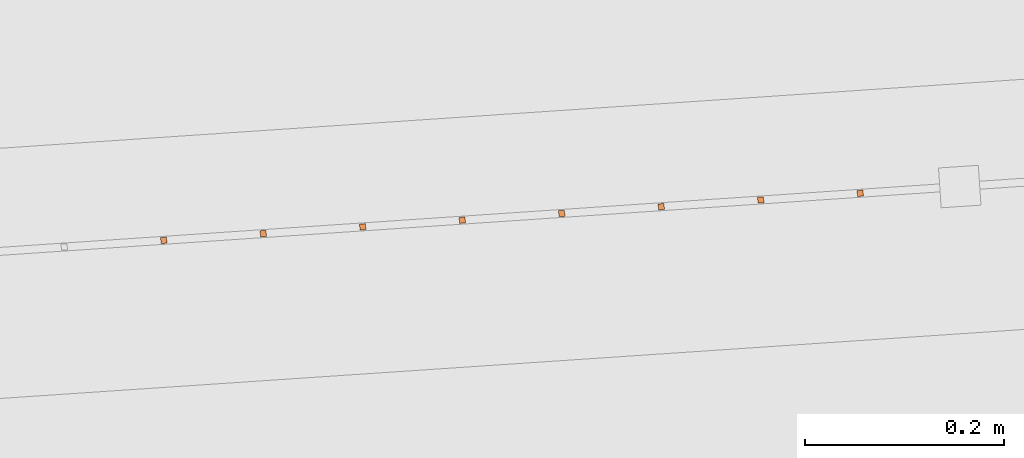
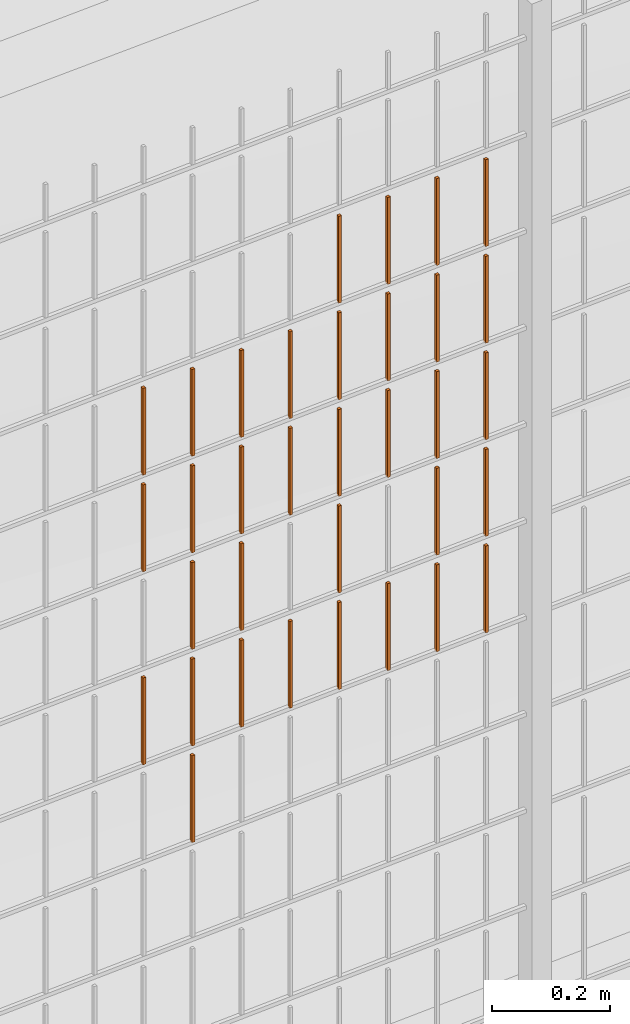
# One storey, part 378 of 1809: 34 proxies, 1 element without a shape of its own.
"""IFC2X3 building model written with IfcOpenShell, lengths in millimetres."""

import ifcopenshell
import ifcopenshell.guid

model = None  # the IFC model being written
_history = None  # IfcOwnerHistory: only IFC2X3 demands one
_inside = {}  # id of a spatial element -> (the spatial element, [elements in it])
_under = {}  # id of a project, library or spatial element -> (it, [spatial elements below it])
_declared = {}  # id of a project -> (the project, [libraries it declares])
_typed = {}  # id of a type object -> (the type object, [elements of that type])
_made_of = {}  # id of a material, layer set ... -> (it, [elements and type objects made of it])


def new_model(schema):
    """Start an empty IFC model of exactly this schema.

    Asked for "IFC4X3", IfcOpenShell would pick the latest addendum, in which some entities
    have other attributes; the version numbers below select the first issue.
    IFC2X3 requires an IfcOwnerHistory on every rooted entity: one is made here for all.
    """
    global model, _history
    if schema == "IFC4X3":
        model = ifcopenshell.file(schema_version=(4, 3, 0, 0))
    else:
        model = ifcopenshell.file(schema=schema)
    _inside.clear()
    _under.clear()
    _declared.clear()
    _typed.clear()
    _made_of.clear()
    _history = None
    if model.schema == "IFC2X3":
        org = make("IfcOrganization", Name="unknown")
        user = make(
            "IfcPersonAndOrganization",
            ThePerson=make("IfcPerson", FamilyName="unknown"),
            TheOrganization=org,
        )
        app = make(
            "IfcApplication",
            ApplicationDeveloper=org,
            Version="unknown",
            ApplicationFullName="unknown",
            ApplicationIdentifier="unknown",
        )
        _history = make(
            "IfcOwnerHistory",
            OwningUser=user,
            OwningApplication=app,
            ChangeAction="ADDED",
            CreationDate=0,
        )
    return model


def make(cls, **values):
    """One entity of the class cls with the attributes given. An attribute that is None is left unset."""
    return model.create_entity(
        cls, **{name: value for name, value in values.items() if value is not None}
    )


def entity(cls, *values):
    """Any entity or typed value of the class cls, its attributes in the order of the schema. None: left unset."""
    e = model.create_entity(cls)
    for i, value in enumerate(values):
        if value is not None:
            e[i] = value
    return e


def rooted(cls, **values):
    """An entity with a GlobalId (a new one), such as an element, a storey or a relation."""
    return make(cls, GlobalId=ifcopenshell.guid.new(), OwnerHistory=_history, **values)


def si_unit(unit_type, name, prefix=None):
    """IfcSIUnit, for example si_unit("LENGTHUNIT", "METRE", prefix="MILLI")."""
    return make("IfcSIUnit", UnitType=unit_type, Prefix=prefix, Name=name)


def converted_unit(unit_type, name, factor, base, dimensions=None, offset=None):
    """IfcConversionBasedUnit, such as the inch: factor (a typed value) times the base unit."""
    return make(
        "IfcConversionBasedUnit"
        if offset is None
        else "IfcConversionBasedUnitWithOffset",
        ConversionOffset=offset,
        Dimensions=None
        if dimensions is None
        else entity("IfcDimensionalExponents", *dimensions),
        UnitType=unit_type,
        Name=name,
        ConversionFactor=make(
            "IfcMeasureWithUnit", ValueComponent=factor, UnitComponent=base
        ),
    )


def derived_unit(unit_type, elements):
    """IfcDerivedUnit: a product of units, each with its exponent."""
    return make(
        "IfcDerivedUnit",
        Elements=[
            make("IfcDerivedUnitElement", Unit=unit, Exponent=power)
            for unit, power in elements
        ],
        UnitType=unit_type,
    )


def money_unit(currency):
    """IfcMonetaryUnit."""
    return make("IfcMonetaryUnit", Currency=currency)


def assignment(units):
    """IfcUnitAssignment: the units of a project."""
    return None if units is None else make("IfcUnitAssignment", Units=units)


def point(xyz):
    """IfcCartesianPoint."""
    return None if xyz is None else make("IfcCartesianPoint", Coordinates=xyz)


def direction(xyz):
    """IfcDirection."""
    return None if xyz is None else make("IfcDirection", DirectionRatios=xyz)


def frame(location, z_axis=None, x_axis=None):
    """IfcAxis2Placement3D, a coordinate frame: its origin and axes. An axis left out is left unset."""
    return make(
        "IfcAxis2Placement3D",
        Location=point(location),
        Axis=direction(z_axis),
        RefDirection=direction(x_axis),
    )


def origin_with_axes():
    """The frame at (0, 0, 0) with the z axis (0, 0, 1) and the x axis (1, 0, 0) written out."""
    return frame((0.0, 0.0, 0.0), z_axis=(0.0, 0.0, 1.0), x_axis=(1.0, 0.0, 0.0))


def place(relative_to, where):
    """IfcLocalPlacement: puts the frame where relative to a parent placement (None: the world)."""
    return make(
        "IfcLocalPlacement", PlacementRelTo=relative_to, RelativePlacement=where
    )


def context(
    kind, dimensions, precision=None, world=None, true_north=None, identifier=None
):
    """IfcGeometricRepresentationContext, for example the 3D "Model" context."""
    return make(
        "IfcGeometricRepresentationContext",
        ContextIdentifier=identifier,
        ContextType=kind,
        CoordinateSpaceDimension=dimensions,
        Precision=precision,
        WorldCoordinateSystem=world,
        TrueNorth=true_north,
    )


def subcontext(parent, identifier, kind, view, scale=None):
    """IfcGeometricRepresentationSubContext, for example "Body" below "Model"."""
    return make(
        "IfcGeometricRepresentationSubContext",
        ContextIdentifier=identifier,
        ContextType=kind,
        ParentContext=parent,
        TargetScale=scale,
        TargetView=view,
    )


def project(units=None, contexts=None):
    """IfcProject with its units and contexts."""
    return rooted(
        "IfcProject",
        Name="project",
        RepresentationContexts=contexts,
        UnitsInContext=assignment(units),
    )


def spatial(cls, under=None, at=None, **own):
    """A site, building, storey or space (cls), placed at a placement, below another one or the project."""
    s = rooted(cls, ObjectPlacement=at, **own)
    if under is not None:
        _under.setdefault(under.id(), (under, []))[1].append(s)
    return s


def faces_of(points, faces, orient=None, outer=None):
    """IfcFace entities. A face is a list of loops; a loop is a list of indices into points, from 0.

    orient and outer hold one flag for each loop. By default every Orientation is true, the
    first loop of a face is its IfcFaceOuterBound and the others are IfcFaceBound.
    """
    made = []
    for i, loops in enumerate(faces):
        bounds = []
        for j, loop in enumerate(loops):
            is_outer = j == 0 if outer is None else outer[i][j]
            bounds.append(
                make(
                    "IfcFaceOuterBound" if is_outer else "IfcFaceBound",
                    Bound=make("IfcPolyLoop", Polygon=[points[k] for k in loop]),
                    Orientation=True if orient is None else orient[i][j],
                )
            )
        made.append(make("IfcFace", Bounds=bounds))
    return made


def faceted_brep(points, faces, orient=None, outer=None, voids=None):
    """IfcFacetedBrep: a solid bounded by flat faces; with voids (closed shells), ...WithVoids."""
    shared = [point(p) for p in points]
    hull = make("IfcClosedShell", CfsFaces=faces_of(shared, faces, orient, outer))
    if voids is None:
        return make("IfcFacetedBrep", Outer=hull)
    return make(
        "IfcFacetedBrepWithVoids",
        Outer=hull,
        Voids=[
            make(cls, CfsFaces=faces_of(shared, fs, o, b)) for cls, fs, o, b in voids
        ],
    )


def shape(context_of_items, identifier, shape_type, items):
    """IfcShapeRepresentation: the items that make up one representation, for example the "Body"."""
    return make(
        "IfcShapeRepresentation",
        ContextOfItems=context_of_items,
        RepresentationIdentifier=identifier,
        RepresentationType=shape_type,
        Items=items,
    )


def source(mapping_origin, context_of_items, identifier, shape_type, items):
    """IfcRepresentationMap: a shape defined once, which mapped items show again and again."""
    return make(
        "IfcRepresentationMap",
        MappingOrigin=mapping_origin,
        MappedRepresentation=shape(context_of_items, identifier, shape_type, items),
    )


def transform(
    local_origin,
    x_axis=None,
    y_axis=None,
    z_axis=None,
    scale=None,
    scale2=None,
    scale3=None,
    uniform=True,
):
    """IfcCartesianTransformationOperator3D, or its non-uniform kind. x_axis, y_axis, z_axis: its Axis1, 2, 3."""
    if uniform:
        return make(
            "IfcCartesianTransformationOperator3D",
            Axis1=direction(x_axis),
            Axis2=direction(y_axis),
            LocalOrigin=point(local_origin),
            Scale=scale,
            Axis3=direction(z_axis),
        )
    return make(
        "IfcCartesianTransformationOperator3DnonUniform",
        Axis1=direction(x_axis),
        Axis2=direction(y_axis),
        LocalOrigin=point(local_origin),
        Scale=scale,
        Axis3=direction(z_axis),
        Scale2=scale2,
        Scale3=scale3,
    )


def mapped(mapping_source, mapping_target):
    """IfcMappedItem: shows the shape of a source again, moved by a transform."""
    return make(
        "IfcMappedItem", MappingSource=mapping_source, MappingTarget=mapping_target
    )


def material(Name=None, Category=None):
    """IfcMaterial."""
    return make("IfcMaterial", Name=Name, Category=Category)


def made_of(thing, what):
    """Note that an element or type object is made of a material, layer set ...; save() writes the relation."""
    if what is not None:
        _made_of.setdefault(what.id(), (what, []))[1].append(thing)
    return thing


def type_object(cls, material=None, **own):
    """A type object (cls), such as IfcWallType, which elements share."""
    return made_of(rooted(cls, **own), material)


def element(
    cls,
    number,
    at=None,
    inside=None,
    cuts=None,
    type_object=None,
    material=None,
    context=None,
    identifier="Body",
    shape_type=None,
    held_by="IfcProductDefinitionShape",
    body=None,
    shapes=None,
    **own,
):
    """One element of the class cls, such as IfcWall. Its Tag is "e" and its number.

    at: its placement. inside: the storey or other place that contains it. cuts: it is an
    opening in that element (IfcRelVoidsElement). A single representation is given by context,
    identifier, shape_type and body (its items); several are given by shapes. held_by: the class
    of the entity that holds the representations. save() writes the other relations.
    """
    e = rooted(cls, Tag="e%d" % number, ObjectPlacement=at, **own)
    if body is not None:
        shapes = [shape(context, identifier, shape_type, body)]
    if shapes is not None:
        e.Representation = make(held_by, Representations=shapes)
    if inside is not None:
        _inside.setdefault(inside.id(), (inside, []))[1].append(e)
    if cuts is not None:
        rooted(
            "IfcRelVoidsElement", RelatingBuildingElement=cuts, RelatedOpeningElement=e
        )
    if type_object is not None:
        _typed.setdefault(type_object.id(), (type_object, []))[1].append(e)
    return made_of(e, material)


def aggregate(whole, parts):
    """IfcRelAggregates: a whole, such as a stair, and the parts it consists of."""
    return rooted("IfcRelAggregates", RelatingObject=whole, RelatedObjects=parts)


def save(model, path):
    """Write the relations noted so far, then the file.

    IfcRelAggregates (storeys below a building ...), IfcRelContainedInSpatialStructure (elements
    in a storey), IfcRelDefinesByType, IfcRelAssociatesMaterial and IfcRelDeclares: one each for
    every whole, place, type object, material and project.
    """
    for whole, parts in _under.values():
        aggregate(whole, parts)
    for where, things in _inside.values():
        rooted(
            "IfcRelContainedInSpatialStructure",
            RelatedElements=things,
            RelatingStructure=where,
        )
    for kind, things in _typed.values():
        rooted("IfcRelDefinesByType", RelatedObjects=things, RelatingType=kind)
    for what, things in _made_of.values():
        rooted("IfcRelAssociatesMaterial", RelatedObjects=things, RelatingMaterial=what)
    for by, libraries in _declared.values():
        rooted("IfcRelDeclares", RelatingContext=by, RelatedDefinitions=libraries)
    model.write(path)


model = new_model("IFC2X3")

# Units and contexts
model_context = context("Model", 3, precision=0.01, world=origin_with_axes(), true_north=direction((0.0, 1.0)))
body_context = subcontext(model_context, "Body", "Model", "MODEL_VIEW")
ifc_project = project(units=[si_unit("LENGTHUNIT", "METRE", prefix="MILLI"), si_unit("AREAUNIT", "SQUARE_METRE"), si_unit("VOLUMEUNIT", "CUBIC_METRE"), converted_unit("PLANEANGLEUNIT", "DEGREE", entity("IfcPlaneAngleMeasure", 0.0174532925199), si_unit("PLANEANGLEUNIT", "RADIAN"), dimensions=[0, 0, 0, 0, 0, 0, 0]), si_unit("SOLIDANGLEUNIT", "STERADIAN"), money_unit("EUR"), converted_unit("TIMEUNIT", "Year", entity("IfcTimeMeasure", 31556926.0), si_unit("TIMEUNIT", "SECOND"), dimensions=[0, 0, 1, 0, 0, 0, 0]), si_unit("MASSUNIT", "GRAM", prefix="KILO"), si_unit("THERMODYNAMICTEMPERATUREUNIT", "DEGREE_CELSIUS"), si_unit("LUMINOUSINTENSITYUNIT", "LUMEN"), si_unit("ENERGYUNIT", "JOULE", prefix="MEGA"), derived_unit("THERMALCONDUCTANCEUNIT", [(si_unit("POWERUNIT", "WATT"), 1), (si_unit("LENGTHUNIT", "METRE"), -1), (si_unit("THERMODYNAMICTEMPERATUREUNIT", "KELVIN"), -1)]), derived_unit("SPECIFICHEATCAPACITYUNIT", [(si_unit("ENERGYUNIT", "JOULE"), 1), (si_unit("MASSUNIT", "GRAM", prefix="KILO"), -1), (si_unit("THERMODYNAMICTEMPERATUREUNIT", "KELVIN"), -1)]), derived_unit("MASSDENSITYUNIT", [(si_unit("MASSUNIT", "GRAM", prefix="KILO"), 1), (si_unit("VOLUMEUNIT", "CUBIC_METRE"), -1)])], contexts=[model_context])

# Site, building, storey
site_placement = place(None, origin_with_axes())
site = spatial("IfcSite", under=ifc_project, at=site_placement, Name="Politse- ja Piirivalveameti ning Päästeameti ühishoone", CompositionType="ELEMENT")
building_placement = place(site_placement, origin_with_axes())
building = spatial("IfcBuilding", under=site, at=building_placement, Name="Politse- ja Piirivalveameti ning Päästeameti ühishoone", CompositionType="ELEMENT")
storey_placement = place(building_placement, origin_with_axes())
storey = spatial("IfcBuildingStorey", under=building, at=storey_placement, Name="Esimene korrus", CompositionType="ELEMENT", Elevation=0.0)

# Proxies
building_element_proxy_type_1 = type_object("IfcBuildingElementProxyType", Name="Railing Type", PredefinedType="NOTDEFINED")
proxy_1_placement = place(storey_placement, frame((89252.001212, -29183.4766571, 203.661247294), z_axis=(0.0, 0.0, 1.0), x_axis=(1.0, 0.0, 0.0)))
proxy_1 = element("IfcBuildingElementProxy", 1, at=proxy_1_placement, inside=storey, type_object=building_element_proxy_type_1, Name="PIIRDEAED")
ifc_material = material(Name="ET-03_Raud")
building_element_proxy_type_2 = type_object("IfcBuildingElementProxyType", Name="IfcBuildingElementProxy", PredefinedType="NOTDEFINED")
shared_shape_1 = source(origin_with_axes(), body_context, "Body", "Brep", [
    faceted_brep([(3.0, 3.0, -0.000752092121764), (-3.0, 3.0, -0.000752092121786), (-3.0, 3.0, 179.99926046), (3.0, 3.0, 179.99926046), (3.0, -3.0, 0.000752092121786), (-3.0, -3.0, 0.000752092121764), (-3.0, -3.0, 180.000764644), (3.0, -3.0, 180.000764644)], [[[0, 1, 2, 3]], [[0, 4, 5, 1]], [[1, 5, 6, 2]], [[3, 2, 6, 7]], [[4, 0, 3, 7]], [[5, 4, 7, 6]]]),
])
proxy_2_placement = place(proxy_1_placement, frame((-17586.6142273, -18485.6841832, 1422.81542113), z_axis=(0.0, 0.0, 1.0), x_axis=(1.0, 0.0, 0.0)))
proxy_2 = element("IfcBuildingElementProxy", 2, at=proxy_2_placement, type_object=building_element_proxy_type_2, material=ifc_material, Name="BALUSTER - 001", context=body_context, shape_type="MappedRepresentation", body=[
    mapped(shared_shape_1, transform((0.0, 0.0, 0.0), x_axis=(-0.0673926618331, 0.997726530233, 0.0), y_axis=(-0.997726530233, -0.0673926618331, 0.0), z_axis=(0.0, 0.0, 1.0))),
])
proxy_3_placement = place(proxy_1_placement, frame((-18085.4774924, -18519.3805141, 1422.69007244), z_axis=(0.0, 0.0, 1.0), x_axis=(1.0, 0.0, 0.0)))
proxy_3 = element("IfcBuildingElementProxy", 3, at=proxy_3_placement, type_object=building_element_proxy_type_2, material=ifc_material, Name="BALUSTER - 001", context=body_context, shape_type="MappedRepresentation", body=[
    mapped(shared_shape_1, transform((0.0, 0.0, 0.0), x_axis=(-0.0673926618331, 0.997726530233, 0.0), y_axis=(-0.997726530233, -0.0673926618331, 0.0), z_axis=(0.0, 0.0, 1.0))),
])
shared_shape_2 = source(origin_with_axes(), body_context, "Body", "Brep", [
    faceted_brep([(3.0, 3.0, -0.000752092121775), (-3.0, 3.0, -0.000752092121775), (-3.0, 3.0, 179.99926046), (3.0, 3.0, 179.99926046), (3.0, -3.0, 0.000752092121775), (-3.0, -3.0, 0.000752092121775), (-3.0, -3.0, 180.000764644), (3.0, -3.0, 180.000764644)], [[[0, 1, 2, 3]], [[0, 4, 5, 1]], [[1, 5, 6, 2]], [[3, 2, 6, 7]], [[4, 0, 3, 7]], [[5, 4, 7, 6]]]),
])
proxy_4_placement = place(proxy_1_placement, frame((-17985.7048394, -18512.6412479, 1422.71514218), z_axis=(0.0, 0.0, 1.0), x_axis=(1.0, 0.0, 0.0)))
proxy_4 = element("IfcBuildingElementProxy", 4, at=proxy_4_placement, type_object=building_element_proxy_type_2, material=ifc_material, Name="BALUSTER - 001", context=body_context, shape_type="MappedRepresentation", body=[
    mapped(shared_shape_2, transform((0.0, 0.0, 0.0), x_axis=(-0.0673926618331, 0.997726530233, 0.0), y_axis=(-0.997726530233, -0.0673926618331, 0.0), z_axis=(0.0, 0.0, 1.0))),
])
shared_shape_3 = source(origin_with_axes(), body_context, "Body", "Brep", [
    faceted_brep([(3.0, 3.0, -0.000752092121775), (-3.0, 3.0, -0.000752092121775), (-3.0, 3.0, 179.99926046), (3.0, 3.0, 179.99926046), (3.0, -3.0, 0.000752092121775), (-3.0, -3.0, 0.000752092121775), (-3.0, -3.0, 180.000764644), (3.0, -3.0, 180.000764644)], [[[0, 1, 2, 3]], [[0, 4, 5, 1]], [[1, 5, 6, 2]], [[3, 2, 6, 7]], [[4, 0, 3, 7]], [[5, 4, 7, 6]]]),
])
proxy_5_placement = place(proxy_1_placement, frame((-17885.9321864, -18505.9019817, 822.740211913), z_axis=(0.0, 0.0, 1.0), x_axis=(1.0, 0.0, 0.0)))
proxy_5 = element("IfcBuildingElementProxy", 5, at=proxy_5_placement, type_object=building_element_proxy_type_2, material=ifc_material, Name="BALUSTER - 001", context=body_context, shape_type="MappedRepresentation", body=[
    mapped(shared_shape_3, transform((0.0, 0.0, 0.0), x_axis=(-0.0673926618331, 0.997726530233, 0.0), y_axis=(-0.997726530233, -0.0673926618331, 0.0), z_axis=(0.0, 0.0, 1.0))),
])
proxy_6_placement = place(proxy_1_placement, frame((-17786.1595333, -18499.1627155, 1222.76528165), z_axis=(0.0, 0.0, 1.0), x_axis=(1.0, 0.0, 0.0)))
proxy_6 = element("IfcBuildingElementProxy", 6, at=proxy_6_placement, type_object=building_element_proxy_type_2, material=ifc_material, Name="BALUSTER - 001", context=body_context, shape_type="MappedRepresentation", body=[
    mapped(shared_shape_3, transform((0.0, 0.0, 0.0), x_axis=(-0.0673926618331, 0.997726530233, 0.0), y_axis=(-0.997726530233, -0.0673926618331, 0.0), z_axis=(0.0, 0.0, 1.0))),
])
shared_shape_4 = source(origin_with_axes(), body_context, "Body", "Brep", [
    faceted_brep([(3.0, 3.0, -0.000752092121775), (-3.0, 3.0, -0.000752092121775), (-3.0, 3.0, 179.99926046), (3.0, 3.0, 179.99926046), (3.0, -3.0, 0.000752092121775), (-3.0, -3.0, 0.000752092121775), (-3.0, -3.0, 180.000764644), (3.0, -3.0, 180.000764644)], [[[0, 1, 2, 3]], [[0, 4, 5, 1]], [[1, 5, 6, 2]], [[3, 2, 6, 7]], [[4, 0, 3, 7]], [[5, 4, 7, 6]]]),
])
proxy_7_placement = place(proxy_1_placement, frame((-17586.6142273, -18485.6841832, 822.815421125), z_axis=(0.0, 0.0, 1.0), x_axis=(1.0, 0.0, 0.0)))
proxy_7 = element("IfcBuildingElementProxy", 7, at=proxy_7_placement, type_object=building_element_proxy_type_2, material=ifc_material, Name="BALUSTER - 001", context=body_context, shape_type="MappedRepresentation", body=[
    mapped(shared_shape_4, transform((0.0, 0.0, 0.0), x_axis=(-0.0673926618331, 0.997726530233, 0.0), y_axis=(-0.997726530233, -0.0673926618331, 0.0), z_axis=(0.0, 0.0, 1.0))),
])
shared_shape_5 = source(origin_with_axes(), body_context, "Body", "Brep", [
    faceted_brep([(3.0, 3.0, -0.000752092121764), (-3.0, 3.0, -0.000752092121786), (-3.0, 3.0, 179.99926046), (3.0, 3.0, 179.99926046), (3.0, -3.0, 0.000752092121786), (-3.0, -3.0, 0.000752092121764), (-3.0, -3.0, 180.000764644), (3.0, -3.0, 180.000764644)], [[[0, 1, 2, 3]], [[0, 4, 5, 1]], [[1, 5, 6, 2]], [[3, 2, 6, 7]], [[4, 0, 3, 7]], [[5, 4, 7, 6]]]),
])
proxy_8_placement = place(proxy_1_placement, frame((-18085.4774924, -18519.3805141, 822.690072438), z_axis=(0.0, 0.0, 1.0), x_axis=(1.0, 0.0, 0.0)))
proxy_8 = element("IfcBuildingElementProxy", 8, at=proxy_8_placement, type_object=building_element_proxy_type_2, material=ifc_material, Name="BALUSTER - 001", context=body_context, shape_type="MappedRepresentation", body=[
    mapped(shared_shape_5, transform((0.0, 0.0, 0.0), x_axis=(-0.0673926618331, 0.997726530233, 0.0), y_axis=(-0.997726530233, -0.0673926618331, 0.0), z_axis=(0.0, 0.0, 1.0))),
])
proxy_9_placement = place(proxy_1_placement, frame((-17586.6142273, -18485.6841832, 1222.81542113), z_axis=(0.0, 0.0, 1.0), x_axis=(1.0, 0.0, 0.0)))
proxy_9 = element("IfcBuildingElementProxy", 9, at=proxy_9_placement, type_object=building_element_proxy_type_2, material=ifc_material, Name="BALUSTER - 001", context=body_context, shape_type="MappedRepresentation", body=[
    mapped(shared_shape_5, transform((0.0, 0.0, 0.0), x_axis=(-0.0673926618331, 0.997726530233, 0.0), y_axis=(-0.997726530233, -0.0673926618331, 0.0), z_axis=(0.0, 0.0, 1.0))),
])
proxy_10_placement = place(proxy_1_placement, frame((-18085.4774924, -18519.3805141, 1222.69007244), z_axis=(0.0, 0.0, 1.0), x_axis=(1.0, 0.0, 0.0)))
proxy_10 = element("IfcBuildingElementProxy", 10, at=proxy_10_placement, type_object=building_element_proxy_type_2, material=ifc_material, Name="BALUSTER - 001", context=body_context, shape_type="MappedRepresentation", body=[
    mapped(shared_shape_5, transform((0.0, 0.0, 0.0), x_axis=(-0.0673926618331, 0.997726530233, 0.0), y_axis=(-0.997726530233, -0.0673926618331, 0.0), z_axis=(0.0, 0.0, 1.0))),
])
shared_shape_6 = source(origin_with_axes(), body_context, "Body", "Brep", [
    faceted_brep([(3.0, 3.0, -0.000752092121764), (-3.0, 3.0, -0.000752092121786), (-3.0, 3.0, 179.99926046), (3.0, 3.0, 179.99926046), (3.0, -3.0, 0.000752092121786), (-3.0, -3.0, 0.000752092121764), (-3.0, -3.0, 180.000764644), (3.0, -3.0, 180.000764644)], [[[0, 1, 2, 3]], [[0, 4, 5, 1]], [[1, 5, 6, 2]], [[3, 2, 6, 7]], [[4, 0, 3, 7]], [[5, 4, 7, 6]]]),
])
proxy_11_placement = place(proxy_1_placement, frame((-17387.0689212, -18472.2056508, 822.8655606), z_axis=(0.0, 0.0, 1.0), x_axis=(1.0, 0.0, 0.0)))
proxy_11 = element("IfcBuildingElementProxy", 11, at=proxy_11_placement, type_object=building_element_proxy_type_2, material=ifc_material, Name="BALUSTER - 001", context=body_context, shape_type="MappedRepresentation", body=[
    mapped(shared_shape_6, transform((0.0, 0.0, 0.0), x_axis=(-0.0673926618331, 0.997726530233, 0.0), y_axis=(-0.997726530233, -0.0673926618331, 0.0), z_axis=(0.0, 0.0, 1.0))),
])
shared_shape_7 = source(origin_with_axes(), body_context, "Body", "Brep", [
    faceted_brep([(3.0, 3.0, -0.000752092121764), (-3.0, 3.0, -0.000752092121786), (-3.0, 3.0, 179.99926046), (3.0, 3.0, 179.99926046), (3.0, -3.0, 0.000752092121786), (-3.0, -3.0, 0.000752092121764), (-3.0, -3.0, 180.000764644), (3.0, -3.0, 180.000764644)], [[[0, 1, 2, 3]], [[0, 4, 5, 1]], [[1, 5, 6, 2]], [[3, 2, 6, 7]], [[4, 0, 3, 7]], [[5, 4, 7, 6]]]),
])
proxy_12_placement = place(proxy_1_placement, frame((-17686.3868803, -18492.4234494, 1222.79035139), z_axis=(0.0, 0.0, 1.0), x_axis=(1.0, 0.0, 0.0)))
proxy_12 = element("IfcBuildingElementProxy", 12, at=proxy_12_placement, type_object=building_element_proxy_type_2, material=ifc_material, Name="BALUSTER - 001", context=body_context, shape_type="MappedRepresentation", body=[
    mapped(shared_shape_7, transform((0.0, 0.0, 0.0), x_axis=(-0.0673926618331, 0.997726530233, 0.0), y_axis=(-0.997726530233, -0.0673926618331, 0.0), z_axis=(0.0, 0.0, 1.0))),
])
shared_shape_8 = source(origin_with_axes(), body_context, "Body", "Brep", [
    faceted_brep([(3.0, 3.0, -0.000752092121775), (-3.0, 3.0, -0.000752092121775), (-3.0, 3.0, 179.99926046), (3.0, 3.0, 179.99926046), (3.0, -3.0, 0.000752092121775), (-3.0, -3.0, 0.000752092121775), (-3.0, -3.0, 180.000764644), (3.0, -3.0, 180.000764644)], [[[0, 1, 2, 3]], [[0, 4, 5, 1]], [[1, 5, 6, 2]], [[3, 2, 6, 7]], [[4, 0, 3, 7]], [[5, 4, 7, 6]]]),
])
proxy_13_placement = place(proxy_1_placement, frame((-17786.1595333, -18499.1627155, 822.765281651), z_axis=(0.0, 0.0, 1.0), x_axis=(1.0, 0.0, 0.0)))
proxy_13 = element("IfcBuildingElementProxy", 13, at=proxy_13_placement, type_object=building_element_proxy_type_2, material=ifc_material, Name="BALUSTER - 001", context=body_context, shape_type="MappedRepresentation", body=[
    mapped(shared_shape_8, transform((0.0, 0.0, 0.0), x_axis=(-0.0673926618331, 0.997726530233, 0.0), y_axis=(-0.997726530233, -0.0673926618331, 0.0), z_axis=(0.0, 0.0, 1.0))),
])
shared_shape_9 = source(origin_with_axes(), body_context, "Body", "Brep", [
    faceted_brep([(3.0, 3.0, -0.000752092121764), (-3.0, 3.0, -0.000752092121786), (-3.0, 3.0, 179.99926046), (3.0, 3.0, 179.99926046), (3.0, -3.0, 0.000752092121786), (-3.0, -3.0, 0.000752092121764), (-3.0, -3.0, 180.000764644), (3.0, -3.0, 180.000764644)], [[[0, 1, 2, 3]], [[0, 4, 5, 1]], [[1, 5, 6, 2]], [[3, 2, 6, 7]], [[4, 0, 3, 7]], [[5, 4, 7, 6]]]),
])
proxy_14_placement = place(proxy_1_placement, frame((-17586.6142273, -18485.6841832, 1622.81542113), z_axis=(0.0, 0.0, 1.0), x_axis=(1.0, 0.0, 0.0)))
proxy_14 = element("IfcBuildingElementProxy", 14, at=proxy_14_placement, type_object=building_element_proxy_type_2, material=ifc_material, Name="BALUSTER - 001", context=body_context, shape_type="MappedRepresentation", body=[
    mapped(shared_shape_9, transform((0.0, 0.0, 0.0), x_axis=(-0.0673926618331, 0.997726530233, 0.0), y_axis=(-0.997726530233, -0.0673926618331, 0.0), z_axis=(0.0, 0.0, 1.0))),
])
shared_shape_10 = source(origin_with_axes(), body_context, "Body", "Brep", [
    faceted_brep([(3.0, 3.0, -0.000752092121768), (-3.0, 3.0, -0.000752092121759), (-3.00000000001, 2.99999999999, 179.99926046), (2.99999999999, 2.99999999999, 179.99926046), (3.0, -3.0, 0.000752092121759), (-3.0, -3.0, 0.000752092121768), (-3.00000000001, -3.00000000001, 180.000764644), (2.99999999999, -3.00000000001, 180.000764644)], [[[0, 1, 2, 3]], [[0, 4, 5, 1]], [[1, 5, 6, 2]], [[3, 2, 6, 7]], [[4, 0, 3, 7]], [[5, 4, 7, 6]]]),
])
proxy_15_placement = place(proxy_1_placement, frame((-17885.9321864, -18505.9019817, 1022.74021191), z_axis=(0.0, 0.0, 1.0), x_axis=(1.0, 0.0, 0.0)))
proxy_15 = element("IfcBuildingElementProxy", 15, at=proxy_15_placement, type_object=building_element_proxy_type_2, material=ifc_material, Name="BALUSTER - 001", context=body_context, shape_type="MappedRepresentation", body=[
    mapped(shared_shape_10, transform((0.0, 0.0, 0.0), x_axis=(-0.0673926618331, 0.997726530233, 0.0), y_axis=(-0.997726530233, -0.0673926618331, 0.0), z_axis=(0.0, 0.0, 1.0))),
])
shared_shape_11 = source(origin_with_axes(), body_context, "Body", "Brep", [
    faceted_brep([(3.0, 3.0, -0.000752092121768), (-3.0, 3.0, -0.000752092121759), (-3.00000000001, 2.99999999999, 179.99926046), (2.99999999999, 2.99999999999, 179.99926046), (3.0, -3.0, 0.000752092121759), (-3.0, -3.0, 0.000752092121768), (-3.00000000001, -3.00000000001, 180.000764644), (2.99999999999, -3.00000000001, 180.000764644)], [[[0, 1, 2, 3]], [[0, 4, 5, 1]], [[1, 5, 6, 2]], [[3, 2, 6, 7]], [[4, 0, 3, 7]], [[5, 4, 7, 6]]]),
])
proxy_16_placement = place(proxy_1_placement, frame((-17387.0689212, -18472.2056508, 1022.8655606), z_axis=(0.0, 0.0, 1.0), x_axis=(1.0, 0.0, 0.0)))
proxy_16 = element("IfcBuildingElementProxy", 16, at=proxy_16_placement, type_object=building_element_proxy_type_2, material=ifc_material, Name="BALUSTER - 001", context=body_context, shape_type="MappedRepresentation", body=[
    mapped(shared_shape_11, transform((0.0, 0.0, 0.0), x_axis=(-0.0673926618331, 0.997726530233, 0.0), y_axis=(-0.997726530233, -0.0673926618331, 0.0), z_axis=(0.0, 0.0, 1.0))),
])
proxy_17_placement = place(proxy_1_placement, frame((-17985.7048394, -18512.6412479, 1022.71514218), z_axis=(0.0, 0.0, 1.0), x_axis=(1.0, 0.0, 0.0)))
proxy_17 = element("IfcBuildingElementProxy", 17, at=proxy_17_placement, type_object=building_element_proxy_type_2, material=ifc_material, Name="BALUSTER - 001", context=body_context, shape_type="MappedRepresentation", body=[
    mapped(shared_shape_11, transform((0.0, 0.0, 0.0), x_axis=(-0.0673926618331, 0.997726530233, 0.0), y_axis=(-0.997726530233, -0.0673926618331, 0.0), z_axis=(0.0, 0.0, 1.0))),
])
shared_shape_12 = source(origin_with_axes(), body_context, "Body", "Brep", [
    faceted_brep([(3.0, 3.0, -0.000752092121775), (-3.0, 3.0, -0.000752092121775), (-3.0, 3.0, 179.99926046), (3.0, 3.0, 179.99926046), (3.0, -3.0, 0.000752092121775), (-3.0, -3.0, 0.000752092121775), (-3.0, -3.0, 180.000764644), (3.0, -3.0, 180.000764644)], [[[0, 1, 2, 3]], [[0, 4, 5, 1]], [[1, 5, 6, 2]], [[3, 2, 6, 7]], [[4, 0, 3, 7]], [[5, 4, 7, 6]]]),
])
proxy_18_placement = place(proxy_1_placement, frame((-17985.7048394, -18512.6412479, 622.715142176), z_axis=(0.0, 0.0, 1.0), x_axis=(1.0, 0.0, 0.0)))
proxy_18 = element("IfcBuildingElementProxy", 18, at=proxy_18_placement, type_object=building_element_proxy_type_2, material=ifc_material, Name="BALUSTER - 001", context=body_context, shape_type="MappedRepresentation", body=[
    mapped(shared_shape_12, transform((0.0, 0.0, 0.0), x_axis=(-0.0673926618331, 0.997726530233, 0.0), y_axis=(-0.997726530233, -0.0673926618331, 0.0), z_axis=(0.0, 0.0, 1.0))),
])
shared_shape_13 = source(origin_with_axes(), body_context, "Body", "Brep", [
    faceted_brep([(3.0, 3.0, -0.000752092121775), (-3.0, 3.0, -0.000752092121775), (-3.0, 3.0, 179.99926046), (3.0, 3.0, 179.99926046), (3.0, -3.0, 0.000752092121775), (-3.0, -3.0, 0.000752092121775), (-3.0, -3.0, 180.000764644), (3.0, -3.0, 180.000764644)], [[[0, 1, 2, 3]], [[0, 4, 5, 1]], [[1, 5, 6, 2]], [[3, 2, 6, 7]], [[4, 0, 3, 7]], [[5, 4, 7, 6]]]),
])
proxy_19_placement = place(proxy_1_placement, frame((-17885.9321864, -18505.9019817, 1222.74021191), z_axis=(0.0, 0.0, 1.0), x_axis=(1.0, 0.0, 0.0)))
proxy_19 = element("IfcBuildingElementProxy", 19, at=proxy_19_placement, type_object=building_element_proxy_type_2, material=ifc_material, Name="BALUSTER - 001", context=body_context, shape_type="MappedRepresentation", body=[
    mapped(shared_shape_13, transform((0.0, 0.0, 0.0), x_axis=(-0.0673926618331, 0.997726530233, 0.0), y_axis=(-0.997726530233, -0.0673926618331, 0.0), z_axis=(0.0, 0.0, 1.0))),
])
shared_shape_14 = source(origin_with_axes(), body_context, "Body", "Brep", [
    faceted_brep([(3.0, 3.0, -0.000752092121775), (-3.0, 3.0, -0.000752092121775), (-3.0, 3.0, 179.99926046), (3.0, 3.0, 179.99926046), (3.0, -3.0, 0.000752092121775), (-3.0, -3.0, 0.000752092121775), (-3.0, -3.0, 180.000764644), (3.0, -3.0, 180.000764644)], [[[0, 1, 2, 3]], [[0, 4, 5, 1]], [[1, 5, 6, 2]], [[3, 2, 6, 7]], [[4, 0, 3, 7]], [[5, 4, 7, 6]]]),
])
proxy_20_placement = place(proxy_1_placement, frame((-17387.0689212, -18472.2056508, 1222.8655606), z_axis=(0.0, 0.0, 1.0), x_axis=(1.0, 0.0, 0.0)))
proxy_20 = element("IfcBuildingElementProxy", 20, at=proxy_20_placement, type_object=building_element_proxy_type_2, material=ifc_material, Name="BALUSTER - 001", context=body_context, shape_type="MappedRepresentation", body=[
    mapped(shared_shape_14, transform((0.0, 0.0, 0.0), x_axis=(-0.0673926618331, 0.997726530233, 0.0), y_axis=(-0.997726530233, -0.0673926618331, 0.0), z_axis=(0.0, 0.0, 1.0))),
])
shared_shape_15 = source(origin_with_axes(), body_context, "Body", "Brep", [
    faceted_brep([(3.0, 3.0, -0.000752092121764), (-3.0, 3.0, -0.000752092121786), (-3.0, 3.0, 179.99926046), (3.0, 3.0, 179.99926046), (3.0, -3.0, 0.000752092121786), (-3.0, -3.0, 0.000752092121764), (-3.0, -3.0, 180.000764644), (3.0, -3.0, 180.000764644)], [[[0, 1, 2, 3]], [[0, 4, 5, 1]], [[1, 5, 6, 2]], [[3, 2, 6, 7]], [[4, 0, 3, 7]], [[5, 4, 7, 6]]]),
])
proxy_21_placement = place(proxy_1_placement, frame((-17686.3868803, -18492.4234494, 1422.79035139), z_axis=(0.0, 0.0, 1.0), x_axis=(1.0, 0.0, 0.0)))
proxy_21 = element("IfcBuildingElementProxy", 21, at=proxy_21_placement, type_object=building_element_proxy_type_2, material=ifc_material, Name="BALUSTER - 001", context=body_context, shape_type="MappedRepresentation", body=[
    mapped(shared_shape_15, transform((0.0, 0.0, 0.0), x_axis=(-0.0673926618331, 0.997726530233, 0.0), y_axis=(-0.997726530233, -0.0673926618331, 0.0), z_axis=(0.0, 0.0, 1.0))),
])
shared_shape_16 = source(origin_with_axes(), body_context, "Body", "Brep", [
    faceted_brep([(3.0, 3.0, -0.000752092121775), (-3.0, 3.0, -0.000752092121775), (-3.0, 3.0, 179.99926046), (3.0, 3.0, 179.99926046), (3.0, -3.0, 0.000752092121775), (-3.0, -3.0, 0.000752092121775), (-3.0, -3.0, 180.000764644), (3.0, -3.0, 180.000764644)], [[[0, 1, 2, 3]], [[0, 4, 5, 1]], [[1, 5, 6, 2]], [[3, 2, 6, 7]], [[4, 0, 3, 7]], [[5, 4, 7, 6]]]),
])
proxy_22_placement = place(proxy_1_placement, frame((-17885.9321864, -18505.9019817, 1422.74021191), z_axis=(0.0, 0.0, 1.0), x_axis=(1.0, 0.0, 0.0)))
proxy_22 = element("IfcBuildingElementProxy", 22, at=proxy_22_placement, type_object=building_element_proxy_type_2, material=ifc_material, Name="BALUSTER - 001", context=body_context, shape_type="MappedRepresentation", body=[
    mapped(shared_shape_16, transform((0.0, 0.0, 0.0), x_axis=(-0.0673926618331, 0.997726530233, 0.0), y_axis=(-0.997726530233, -0.0673926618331, 0.0), z_axis=(0.0, 0.0, 1.0))),
])
shared_shape_17 = source(origin_with_axes(), body_context, "Body", "Brep", [
    faceted_brep([(3.0, 3.0, -0.000752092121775), (-3.0, 3.0, -0.000752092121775), (-3.0, 3.0, 179.99926046), (3.0, 3.0, 179.99926046), (3.0, -3.0, 0.000752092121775), (-3.0, -3.0, 0.000752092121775), (-3.0, -3.0, 180.000764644), (3.0, -3.0, 180.000764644)], [[[0, 1, 2, 3]], [[0, 4, 5, 1]], [[1, 5, 6, 2]], [[3, 2, 6, 7]], [[4, 0, 3, 7]], [[5, 4, 7, 6]]]),
])
proxy_23_placement = place(proxy_1_placement, frame((-17387.0689212, -18472.2056508, 1422.8655606), z_axis=(0.0, 0.0, 1.0), x_axis=(1.0, 0.0, 0.0)))
proxy_23 = element("IfcBuildingElementProxy", 23, at=proxy_23_placement, type_object=building_element_proxy_type_2, material=ifc_material, Name="BALUSTER - 001", context=body_context, shape_type="MappedRepresentation", body=[
    mapped(shared_shape_17, transform((0.0, 0.0, 0.0), x_axis=(-0.0673926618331, 0.997726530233, 0.0), y_axis=(-0.997726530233, -0.0673926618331, 0.0), z_axis=(0.0, 0.0, 1.0))),
])
shared_shape_18 = source(origin_with_axes(), body_context, "Body", "Brep", [
    faceted_brep([(3.0, 3.0, -0.000752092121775), (-3.0, 3.0, -0.000752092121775), (-3.0, 3.0, 179.99926046), (3.0, 3.0, 179.99926046), (3.0, -3.0, 0.000752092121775), (-3.0, -3.0, 0.000752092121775), (-3.0, -3.0, 180.000764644), (3.0, -3.0, 180.000764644)], [[[0, 1, 2, 3]], [[0, 4, 5, 1]], [[1, 5, 6, 2]], [[3, 2, 6, 7]], [[4, 0, 3, 7]], [[5, 4, 7, 6]]]),
])
proxy_24_placement = place(proxy_1_placement, frame((-17387.0689212, -18472.2056508, 1622.8655606), z_axis=(0.0, 0.0, 1.0), x_axis=(1.0, 0.0, 0.0)))
proxy_24 = element("IfcBuildingElementProxy", 24, at=proxy_24_placement, type_object=building_element_proxy_type_2, material=ifc_material, Name="BALUSTER - 001", context=body_context, shape_type="MappedRepresentation", body=[
    mapped(shared_shape_18, transform((0.0, 0.0, 0.0), x_axis=(-0.0673926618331, 0.997726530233, 0.0), y_axis=(-0.997726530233, -0.0673926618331, 0.0), z_axis=(0.0, 0.0, 1.0))),
])
shared_shape_19 = source(origin_with_axes(), body_context, "Body", "Brep", [
    faceted_brep([(3.0, 3.0, -0.000752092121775), (-3.0, 3.0, -0.000752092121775), (-3.0, 3.0, 179.99926046), (3.0, 3.0, 179.99926046), (3.0, -3.0, 0.000752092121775), (-3.0, -3.0, 0.000752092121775), (-3.0, -3.0, 180.000764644), (3.0, -3.0, 180.000764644)], [[[0, 1, 2, 3]], [[0, 4, 5, 1]], [[1, 5, 6, 2]], [[3, 2, 6, 7]], [[4, 0, 3, 7]], [[5, 4, 7, 6]]]),
])
proxy_25_placement = place(proxy_1_placement, frame((-17686.3868803, -18492.4234494, 822.790351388), z_axis=(0.0, 0.0, 1.0), x_axis=(1.0, 0.0, 0.0)))
proxy_25 = element("IfcBuildingElementProxy", 25, at=proxy_25_placement, type_object=building_element_proxy_type_2, material=ifc_material, Name="BALUSTER - 001", context=body_context, shape_type="MappedRepresentation", body=[
    mapped(shared_shape_19, transform((0.0, 0.0, 0.0), x_axis=(-0.0673926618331, 0.997726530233, 0.0), y_axis=(-0.997726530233, -0.0673926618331, 0.0), z_axis=(0.0, 0.0, 1.0))),
])
proxy_26_placement = place(proxy_1_placement, frame((-17985.7048394, -18512.6412479, 822.715142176), z_axis=(0.0, 0.0, 1.0), x_axis=(1.0, 0.0, 0.0)))
proxy_26 = element("IfcBuildingElementProxy", 26, at=proxy_26_placement, type_object=building_element_proxy_type_2, material=ifc_material, Name="BALUSTER - 001", context=body_context, shape_type="MappedRepresentation", body=[
    mapped(shared_shape_19, transform((0.0, 0.0, 0.0), x_axis=(-0.0673926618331, 0.997726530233, 0.0), y_axis=(-0.997726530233, -0.0673926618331, 0.0), z_axis=(0.0, 0.0, 1.0))),
])
proxy_27_placement = place(proxy_1_placement, frame((-17985.7048394, -18512.6412479, 1222.71514218), z_axis=(0.0, 0.0, 1.0), x_axis=(1.0, 0.0, 0.0)))
proxy_27 = element("IfcBuildingElementProxy", 27, at=proxy_27_placement, type_object=building_element_proxy_type_2, material=ifc_material, Name="BALUSTER - 001", context=body_context, shape_type="MappedRepresentation", body=[
    mapped(shared_shape_19, transform((0.0, 0.0, 0.0), x_axis=(-0.0673926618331, 0.997726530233, 0.0), y_axis=(-0.997726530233, -0.0673926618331, 0.0), z_axis=(0.0, 0.0, 1.0))),
])
shared_shape_20 = source(origin_with_axes(), body_context, "Body", "Brep", [
    faceted_brep([(3.0, 3.0, -0.000752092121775), (-3.0, 3.0, -0.000752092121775), (-3.0, 3.0, 179.99926046), (3.0, 3.0, 179.99926046), (3.0, -3.0, 0.000752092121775), (-3.0, -3.0, 0.000752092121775), (-3.0, -3.0, 180.000764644), (3.0, -3.0, 180.000764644)], [[[0, 1, 2, 3]], [[0, 4, 5, 1]], [[1, 5, 6, 2]], [[3, 2, 6, 7]], [[4, 0, 3, 7]], [[5, 4, 7, 6]]]),
])
proxy_28_placement = place(proxy_1_placement, frame((-17786.1595333, -18499.1627155, 1422.76528165), z_axis=(0.0, 0.0, 1.0), x_axis=(1.0, 0.0, 0.0)))
proxy_28 = element("IfcBuildingElementProxy", 28, at=proxy_28_placement, type_object=building_element_proxy_type_2, material=ifc_material, Name="BALUSTER - 001", context=body_context, shape_type="MappedRepresentation", body=[
    mapped(shared_shape_20, transform((0.0, 0.0, 0.0), x_axis=(-0.0673926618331, 0.997726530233, 0.0), y_axis=(-0.997726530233, -0.0673926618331, 0.0), z_axis=(0.0, 0.0, 1.0))),
])
shared_shape_21 = source(origin_with_axes(), body_context, "Body", "Brep", [
    faceted_brep([(3.0, 3.0, -0.000752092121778), (-3.0, 3.0, -0.000752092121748), (-3.00000000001, 2.99999999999, 179.99926046), (2.99999999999, 2.99999999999, 179.99926046), (3.0, -3.0, 0.000752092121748), (-3.0, -3.0, 0.000752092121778), (-3.00000000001, -3.00000000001, 180.000764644), (2.99999999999, -3.00000000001, 180.000764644)], [[[0, 1, 2, 3]], [[0, 4, 5, 1]], [[1, 5, 6, 2]], [[3, 2, 6, 7]], [[4, 0, 3, 7]], [[5, 4, 7, 6]]]),
])
proxy_29_placement = place(proxy_1_placement, frame((-17486.8415743, -18478.944917, 1022.84049086), z_axis=(0.0, 0.0, 1.0), x_axis=(1.0, 0.0, 0.0)))
proxy_29 = element("IfcBuildingElementProxy", 29, at=proxy_29_placement, type_object=building_element_proxy_type_2, material=ifc_material, Name="BALUSTER - 001", context=body_context, shape_type="MappedRepresentation", body=[
    mapped(shared_shape_21, transform((0.0, 0.0, 0.0), x_axis=(-0.0673926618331, 0.997726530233, 0.0), y_axis=(-0.997726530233, -0.0673926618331, 0.0), z_axis=(0.0, 0.0, 1.0))),
])
shared_shape_22 = source(origin_with_axes(), body_context, "Body", "Brep", [
    faceted_brep([(3.0, 3.0, -0.000752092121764), (-3.0, 3.0, -0.000752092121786), (-3.0, 3.0, 179.99926046), (3.0, 3.0, 179.99926046), (3.0, -3.0, 0.000752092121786), (-3.0, -3.0, 0.000752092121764), (-3.0, -3.0, 180.000764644), (3.0, -3.0, 180.000764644)], [[[0, 1, 2, 3]], [[0, 4, 5, 1]], [[1, 5, 6, 2]], [[3, 2, 6, 7]], [[4, 0, 3, 7]], [[5, 4, 7, 6]]]),
])
proxy_30_placement = place(proxy_1_placement, frame((-17686.3868803, -18492.4234494, 1622.79035139), z_axis=(0.0, 0.0, 1.0), x_axis=(1.0, 0.0, 0.0)))
proxy_30 = element("IfcBuildingElementProxy", 30, at=proxy_30_placement, type_object=building_element_proxy_type_2, material=ifc_material, Name="BALUSTER - 001", context=body_context, shape_type="MappedRepresentation", body=[
    mapped(shared_shape_22, transform((0.0, 0.0, 0.0), x_axis=(-0.0673926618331, 0.997726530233, 0.0), y_axis=(-0.997726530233, -0.0673926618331, 0.0), z_axis=(0.0, 0.0, 1.0))),
])
shared_shape_23 = source(origin_with_axes(), body_context, "Body", "Brep", [
    faceted_brep([(3.0, 3.0, -0.000752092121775), (-3.0, 3.0, -0.000752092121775), (-3.0, 3.0, 179.99926046), (3.0, 3.0, 179.99926046), (3.0, -3.0, 0.000752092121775), (-3.0, -3.0, 0.000752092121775), (-3.0, -3.0, 180.000764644), (3.0, -3.0, 180.000764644)], [[[0, 1, 2, 3]], [[0, 4, 5, 1]], [[1, 5, 6, 2]], [[3, 2, 6, 7]], [[4, 0, 3, 7]], [[5, 4, 7, 6]]]),
])
proxy_31_placement = place(proxy_1_placement, frame((-17486.8415743, -18478.944917, 1222.84049086), z_axis=(0.0, 0.0, 1.0), x_axis=(1.0, 0.0, 0.0)))
proxy_31 = element("IfcBuildingElementProxy", 31, at=proxy_31_placement, type_object=building_element_proxy_type_2, material=ifc_material, Name="BALUSTER - 001", context=body_context, shape_type="MappedRepresentation", body=[
    mapped(shared_shape_23, transform((0.0, 0.0, 0.0), x_axis=(-0.0673926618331, 0.997726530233, 0.0), y_axis=(-0.997726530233, -0.0673926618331, 0.0), z_axis=(0.0, 0.0, 1.0))),
])
shared_shape_24 = source(origin_with_axes(), body_context, "Body", "Brep", [
    faceted_brep([(3.0, 3.0, -0.000752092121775), (-3.0, 3.0, -0.000752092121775), (-3.0, 3.0, 179.99926046), (3.0, 3.0, 179.99926046), (3.0, -3.0, 0.000752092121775), (-3.0, -3.0, 0.000752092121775), (-3.0, -3.0, 180.000764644), (3.0, -3.0, 180.000764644)], [[[0, 1, 2, 3]], [[0, 4, 5, 1]], [[1, 5, 6, 2]], [[3, 2, 6, 7]], [[4, 0, 3, 7]], [[5, 4, 7, 6]]]),
])
proxy_32_placement = place(proxy_1_placement, frame((-17486.8415743, -18478.944917, 822.840490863), z_axis=(0.0, 0.0, 1.0), x_axis=(1.0, 0.0, 0.0)))
proxy_32 = element("IfcBuildingElementProxy", 32, at=proxy_32_placement, type_object=building_element_proxy_type_2, material=ifc_material, Name="BALUSTER - 001", context=body_context, shape_type="MappedRepresentation", body=[
    mapped(shared_shape_24, transform((0.0, 0.0, 0.0), x_axis=(-0.0673926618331, 0.997726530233, 0.0), y_axis=(-0.997726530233, -0.0673926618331, 0.0), z_axis=(0.0, 0.0, 1.0))),
])
shared_shape_25 = source(origin_with_axes(), body_context, "Body", "Brep", [
    faceted_brep([(3.0, 3.0, -0.000752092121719), (-3.0, 3.0, -0.000752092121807), (-3.00000000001, 2.99999999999, 179.99926046), (2.99999999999, 2.99999999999, 179.99926046), (3.0, -3.0, 0.000752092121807), (-3.0, -3.0, 0.000752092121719), (-3.00000000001, -3.00000000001, 180.000764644), (2.99999999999, -3.00000000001, 180.000764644)], [[[0, 1, 2, 3]], [[0, 4, 5, 1]], [[1, 5, 6, 2]], [[3, 2, 6, 7]], [[4, 0, 3, 7]], [[5, 4, 7, 6]]]),
])
proxy_33_placement = place(proxy_1_placement, frame((-17686.3868803, -18492.4234494, 1022.79035139), z_axis=(0.0, 0.0, 1.0), x_axis=(1.0, 0.0, 0.0)))
proxy_33 = element("IfcBuildingElementProxy", 33, at=proxy_33_placement, type_object=building_element_proxy_type_2, material=ifc_material, Name="BALUSTER - 001", context=body_context, shape_type="MappedRepresentation", body=[
    mapped(shared_shape_25, transform((0.0, 0.0, 0.0), x_axis=(-0.0673926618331, 0.997726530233, 0.0), y_axis=(-0.997726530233, -0.0673926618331, 0.0), z_axis=(0.0, 0.0, 1.0))),
])
shared_shape_26 = source(origin_with_axes(), body_context, "Body", "Brep", [
    faceted_brep([(3.0, 3.0, -0.000752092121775), (-3.0, 3.0, -0.000752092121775), (-3.0, 3.0, 179.99926046), (3.0, 3.0, 179.99926046), (3.0, -3.0, 0.000752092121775), (-3.0, -3.0, 0.000752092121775), (-3.0, -3.0, 180.000764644), (3.0, -3.0, 180.000764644)], [[[0, 1, 2, 3]], [[0, 4, 5, 1]], [[1, 5, 6, 2]], [[3, 2, 6, 7]], [[4, 0, 3, 7]], [[5, 4, 7, 6]]]),
])
proxy_34_placement = place(proxy_1_placement, frame((-17486.8415743, -18478.944917, 1422.84049086), z_axis=(0.0, 0.0, 1.0), x_axis=(1.0, 0.0, 0.0)))
proxy_34 = element("IfcBuildingElementProxy", 34, at=proxy_34_placement, type_object=building_element_proxy_type_2, material=ifc_material, Name="BALUSTER - 001", context=body_context, shape_type="MappedRepresentation", body=[
    mapped(shared_shape_26, transform((0.0, 0.0, 0.0), x_axis=(-0.0673926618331, 0.997726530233, 0.0), y_axis=(-0.997726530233, -0.0673926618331, 0.0), z_axis=(0.0, 0.0, 1.0))),
])
proxy_35_placement = place(proxy_1_placement, frame((-17486.8415743, -18478.944917, 1622.84049086), z_axis=(0.0, 0.0, 1.0), x_axis=(1.0, 0.0, 0.0)))
proxy_35 = element("IfcBuildingElementProxy", 35, at=proxy_35_placement, type_object=building_element_proxy_type_2, material=ifc_material, Name="BALUSTER - 001", context=body_context, shape_type="MappedRepresentation", body=[
    mapped(shared_shape_26, transform((0.0, 0.0, 0.0), x_axis=(-0.0673926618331, 0.997726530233, 0.0), y_axis=(-0.997726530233, -0.0673926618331, 0.0), z_axis=(0.0, 0.0, 1.0))),
])
aggregate(proxy_1, [proxy_18, proxy_11, proxy_32, proxy_7, proxy_25, proxy_13, proxy_5, proxy_26, proxy_8, proxy_16, proxy_29, proxy_33, proxy_15, proxy_17, proxy_20, proxy_31, proxy_9, proxy_12, proxy_6, proxy_19, proxy_27, proxy_10, proxy_23, proxy_34, proxy_2, proxy_21, proxy_28, proxy_22, proxy_4, proxy_3, proxy_24, proxy_35, proxy_14, proxy_30])

save(model, "model.ifc")
